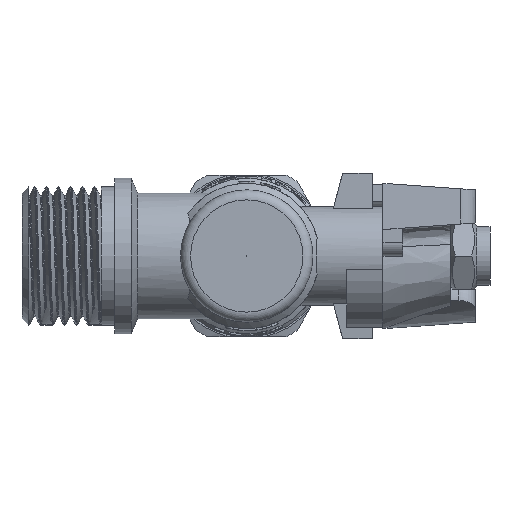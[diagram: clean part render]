
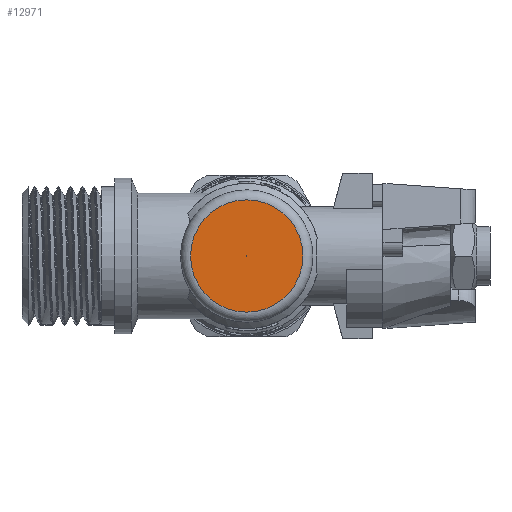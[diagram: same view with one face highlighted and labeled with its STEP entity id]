
A CAD part, front view. The second image highlights one B-rep face of the part: STEP entity #12971.
In plain terms, the highlighted planar face has unit normal (0, -1, 0).
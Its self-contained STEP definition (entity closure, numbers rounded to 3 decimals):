
#2767=FACE_BOUND('',#3897,.T.);
#3134=FACE_OUTER_BOUND('',#3896,.T.);
#3896=EDGE_LOOP('',(#9946,#9947));
#3897=EDGE_LOOP('',(#9948,#9949));
#4564=CIRCLE('',#14003,0.005);
#4565=CIRCLE('',#14004,0.005);
#4566=CIRCLE('',#14006,8.5);
#4567=CIRCLE('',#14007,8.5);
#5495=VERTEX_POINT('',#23326);
#5496=VERTEX_POINT('',#23328);
#5497=VERTEX_POINT('',#23332);
#5498=VERTEX_POINT('',#23333);
#7141=EDGE_CURVE('',#5496,#5495,#4564,.T.);
#7142=EDGE_CURVE('',#5495,#5496,#4565,.T.);
#7143=EDGE_CURVE('',#5497,#5498,#4566,.T.);
#7144=EDGE_CURVE('',#5498,#5497,#4567,.T.);
#9946=ORIENTED_EDGE('',*,*,#7143,.F.);
#9947=ORIENTED_EDGE('',*,*,#7144,.F.);
#9948=ORIENTED_EDGE('',*,*,#7141,.T.);
#9949=ORIENTED_EDGE('',*,*,#7142,.T.);
#12528=PLANE('',#14005);
#12971=ADVANCED_FACE('',(#3134,#2767),#12528,.T.);
#14003=AXIS2_PLACEMENT_3D('',#23329,#15987,#15988);
#14004=AXIS2_PLACEMENT_3D('',#23330,#15989,#15990);
#14005=AXIS2_PLACEMENT_3D('',#23331,#15991,#15992);
#14006=AXIS2_PLACEMENT_3D('',#23334,#15993,#15994);
#14007=AXIS2_PLACEMENT_3D('',#23335,#15995,#15996);
#15987=DIRECTION('center_axis',(0.,1.,0.));
#15988=DIRECTION('ref_axis',(1.,0.,0.));
#15989=DIRECTION('center_axis',(0.,1.,0.));
#15990=DIRECTION('ref_axis',(1.,0.,0.));
#15991=DIRECTION('center_axis',(0.,-1.,0.));
#15992=DIRECTION('ref_axis',(0.,0.,-1.));
#15993=DIRECTION('center_axis',(0.,1.,0.));
#15994=DIRECTION('ref_axis',(1.,0.,0.));
#15995=DIRECTION('center_axis',(0.,1.,0.));
#15996=DIRECTION('ref_axis',(1.,0.,0.));
#23326=CARTESIAN_POINT('',(-21.005,-12.5,0.));
#23328=CARTESIAN_POINT('',(-20.995,-12.5,0.));
#23329=CARTESIAN_POINT('Origin',(-21.,-12.5,0.));
#23330=CARTESIAN_POINT('Origin',(-21.,-12.5,0.));
#23331=CARTESIAN_POINT('Origin',(-12.5,-12.5,0.));
#23332=CARTESIAN_POINT('',(-12.5,-12.5,0.));
#23333=CARTESIAN_POINT('',(-21.,-12.5,-8.5));
#23334=CARTESIAN_POINT('Origin',(-21.,-12.5,0.));
#23335=CARTESIAN_POINT('Origin',(-21.,-12.5,0.));
